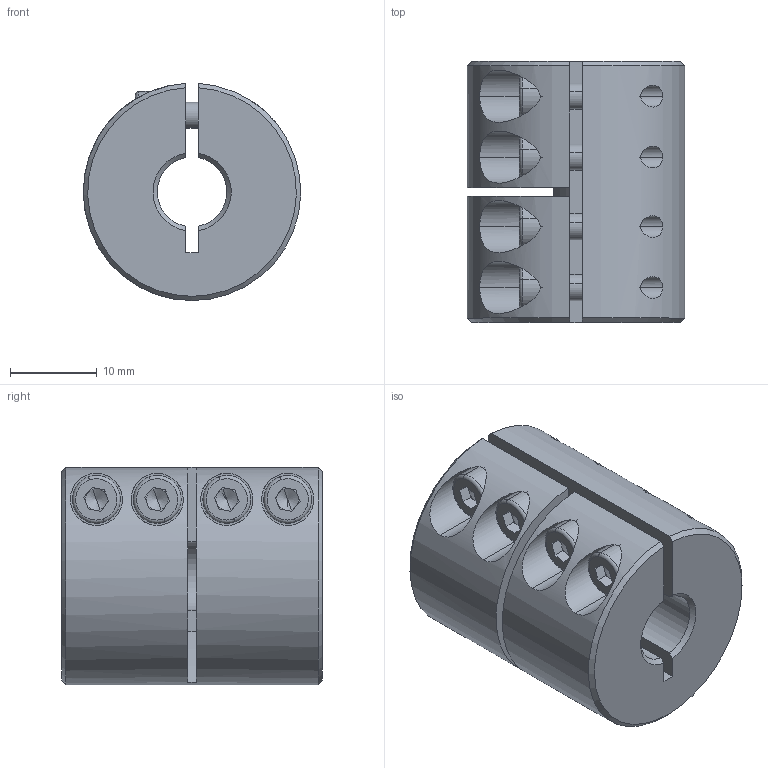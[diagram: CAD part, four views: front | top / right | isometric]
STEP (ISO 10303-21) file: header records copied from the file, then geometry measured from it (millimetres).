
FILE_DESCRIPTION (( 'STEP AP214' ), '1' );
FILE_NAME ('LL-B-D25L30-8-8½¨Ä£.STEP', '2022-07-21T03:15:23', ( '' ), ( '' ), 'SwSTEP 2.0', 'SolidWorks 2022', '' );
FILE_SCHEMA (( 'AUTOMOTIVE_DESIGN' ));
Length unit declared in the file: millimetre
Products named in the file (1): LL-B-D25L30-8-8膘耀
Bounding box: 24.99 x 30 x 24.98 mm (x, y, z)
Volume: 12082.4 mm3; surface area: 5908.9 mm2
Topology: 1 solids, 1 shells, 162 faces, 412 edges, 260 vertices
Faces by surface type: plane 82, cylinder 57, cone 15, torus 8
Entity records: 5334 total; most frequent: CARTESIAN_POINT 1351, DIRECTION 850, ORIENTED_EDGE 808, EDGE_CURVE 404, AXIS2_PLACEMENT_3D 327, VERTEX_POINT 260, VECTOR 196, LINE 196
